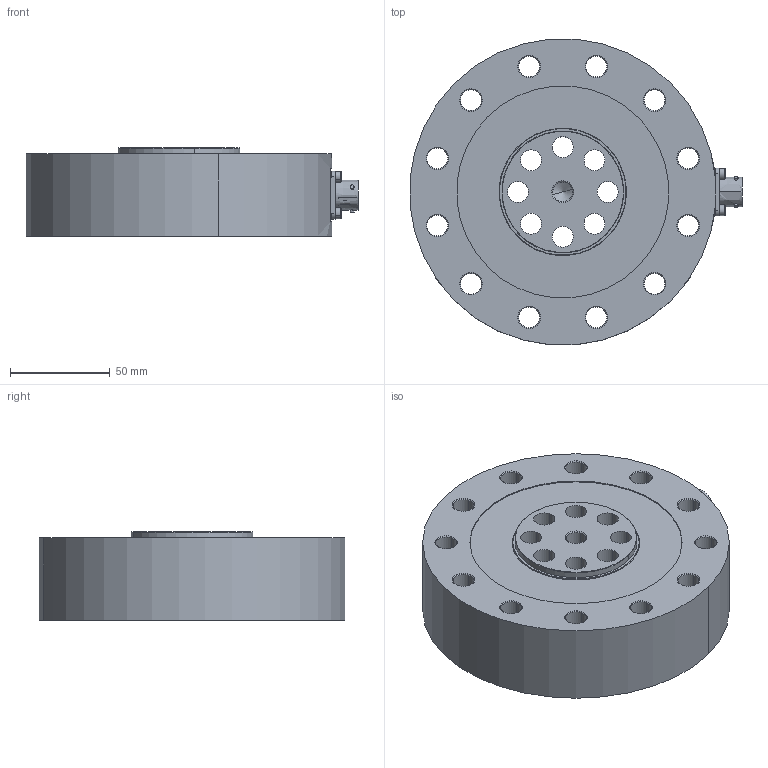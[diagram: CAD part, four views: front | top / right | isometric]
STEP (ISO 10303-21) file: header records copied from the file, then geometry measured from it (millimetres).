
FILE_DESCRIPTION((''),'2;1');
FILE_NAME('U10F-50KN','2021-03-15T',('ESCHE'),(''),'CREO PARAMETRIC BY PTC INC, 2018220','CREO PARAMETRIC BY PTC INC, 2018220','');
FILE_SCHEMA(('CONFIG_CONTROL_DESIGN'));
Length unit declared in the file: millimetre
Products named in the file (1): U10F-50KN
Bounding box: 166.61 x 153.31 x 44.5 mm (x, y, z)
Volume: 680561.8 mm3; surface area: 86592.6 mm2
Topology: 1 solids, 1 shells, 236 faces, 565 edges, 355 vertices
Faces by surface type: bspline 236
Entity records: 9881 total; most frequent: CARTESIAN_POINT 4746, ORIENTED_EDGE 1126, DIRECTION 827, EDGE_CURVE 563, VERTEX_POINT 355, EDGE_LOOP 302, VECTOR 283, LINE 283
